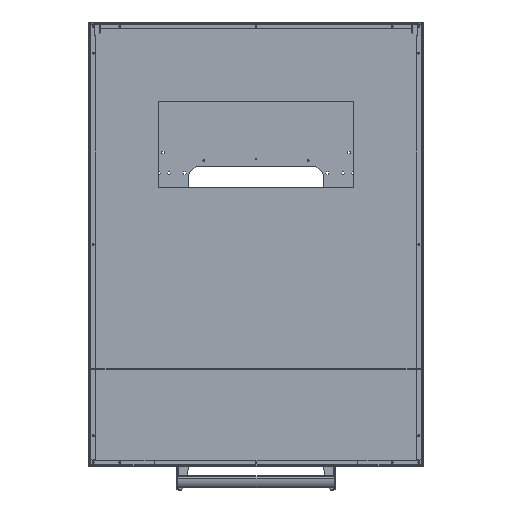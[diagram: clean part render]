
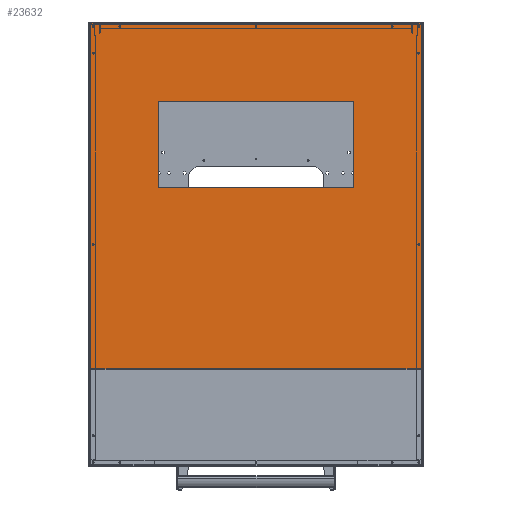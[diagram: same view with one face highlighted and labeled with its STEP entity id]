
A CAD part, top view. The second image highlights one B-rep face of the part: STEP entity #23632.
In plain terms, the highlighted planar face has unit normal (0, 0, 1).
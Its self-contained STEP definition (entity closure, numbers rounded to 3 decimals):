
#2663=LINE('',#40694,#4946);
#2664=LINE('',#40697,#4947);
#2665=LINE('',#40699,#4948);
#2666=LINE('',#40701,#4949);
#2667=LINE('',#40702,#4950);
#2668=LINE('',#40703,#4951);
#2669=LINE('',#40705,#4952);
#2670=LINE('',#40706,#4953);
#2671=LINE('',#40707,#4954);
#2672=LINE('',#40709,#4955);
#4946=VECTOR('',#33484,1000.);
#4947=VECTOR('',#33485,1000.);
#4948=VECTOR('',#33486,1000.);
#4949=VECTOR('',#33487,1000.);
#4950=VECTOR('',#33488,1000.);
#4951=VECTOR('',#33489,1000.);
#4952=VECTOR('',#33490,1000.);
#4953=VECTOR('',#33491,1000.);
#4954=VECTOR('',#33492,1000.);
#4955=VECTOR('',#33493,1000.);
#5768=PLANE('',#26915);
#12106=ORIENTED_EDGE('',*,*,#15542,.F.);
#12107=ORIENTED_EDGE('',*,*,#15543,.F.);
#12108=ORIENTED_EDGE('',*,*,#15544,.F.);
#12109=ORIENTED_EDGE('',*,*,#15545,.F.);
#12110=ORIENTED_EDGE('',*,*,#15546,.F.);
#12111=ORIENTED_EDGE('',*,*,#15547,.F.);
#12112=ORIENTED_EDGE('',*,*,#15548,.F.);
#12113=ORIENTED_EDGE('',*,*,#15549,.F.);
#12114=ORIENTED_EDGE('',*,*,#15550,.F.);
#12115=ORIENTED_EDGE('',*,*,#15551,.F.);
#15542=EDGE_CURVE('',#17771,#17772,#2663,.T.);
#15543=EDGE_CURVE('',#17773,#17771,#2664,.T.);
#15544=EDGE_CURVE('',#17774,#17773,#2665,.T.);
#15545=EDGE_CURVE('',#17772,#17774,#2666,.T.);
#15546=EDGE_CURVE('',#17746,#17735,#2667,.T.);
#15547=EDGE_CURVE('',#17775,#17746,#2668,.T.);
#15548=EDGE_CURVE('',#17764,#17775,#2669,.T.);
#15549=EDGE_CURVE('',#17768,#17764,#2670,.T.);
#15550=EDGE_CURVE('',#17776,#17768,#2671,.T.);
#15551=EDGE_CURVE('',#17735,#17776,#2672,.T.);
#17735=VERTEX_POINT('',#40612);
#17746=VERTEX_POINT('',#40635);
#17764=VERTEX_POINT('',#40676);
#17768=VERTEX_POINT('',#40686);
#17771=VERTEX_POINT('',#40695);
#17772=VERTEX_POINT('',#40696);
#17773=VERTEX_POINT('',#40698);
#17774=VERTEX_POINT('',#40700);
#17775=VERTEX_POINT('',#40704);
#17776=VERTEX_POINT('',#40708);
#20233=EDGE_LOOP('',(#12106,#12107,#12108,#12109));
#20234=EDGE_LOOP('',(#12110,#12111,#12112,#12113,#12114,#12115));
#21904=FACE_BOUND('',#20233,.T.);
#21905=FACE_BOUND('',#20234,.T.);
#23632=ADVANCED_FACE('',(#21904,#21905),#5768,.F.);
#26915=AXIS2_PLACEMENT_3D('',#40693,#33482,#33483);
#33482=DIRECTION('',(0.,0.,-1.));
#33483=DIRECTION('',(-1.,0.,0.));
#33484=DIRECTION('',(0.,-1.,0.));
#33485=DIRECTION('',(-1.,0.,0.));
#33486=DIRECTION('',(0.,1.,0.));
#33487=DIRECTION('',(1.,0.,0.));
#33488=DIRECTION('',(-1.,0.,0.));
#33489=DIRECTION('',(-1.,0.,0.));
#33490=DIRECTION('',(0.,-1.,0.));
#33491=DIRECTION('',(1.,0.,0.));
#33492=DIRECTION('',(0.,1.,0.));
#33493=DIRECTION('',(-1.,0.,0.));
#40612=CARTESIAN_POINT('',(-345.4,-398.9,0.7));
#40635=CARTESIAN_POINT('',(345.4,-398.9,0.7));
#40676=CARTESIAN_POINT('',(384.4,398.9,0.7));
#40686=CARTESIAN_POINT('',(-384.4,398.9,0.7));
#40693=CARTESIAN_POINT('',(0.,0.,0.7));
#40694=CARTESIAN_POINT('',(-225.,217.602,0.7));
#40695=CARTESIAN_POINT('',(-225.,217.602,0.7));
#40696=CARTESIAN_POINT('',(-225.,17.602,0.7));
#40697=CARTESIAN_POINT('',(225.,217.602,0.7));
#40698=CARTESIAN_POINT('',(225.,217.602,0.7));
#40699=CARTESIAN_POINT('',(225.,17.602,0.7));
#40700=CARTESIAN_POINT('',(225.,17.602,0.7));
#40701=CARTESIAN_POINT('',(-225.,17.602,0.7));
#40702=CARTESIAN_POINT('',(765.4,-398.9,0.7));
#40703=CARTESIAN_POINT('',(384.4,-398.9,0.7));
#40704=CARTESIAN_POINT('',(384.4,-398.9,0.7));
#40705=CARTESIAN_POINT('',(384.4,398.9,0.7));
#40706=CARTESIAN_POINT('',(-765.4,398.9,0.7));
#40707=CARTESIAN_POINT('',(-384.4,-398.9,0.7));
#40708=CARTESIAN_POINT('',(-384.4,-398.9,0.7));
#40709=CARTESIAN_POINT('',(-382.4,-398.9,0.7));
